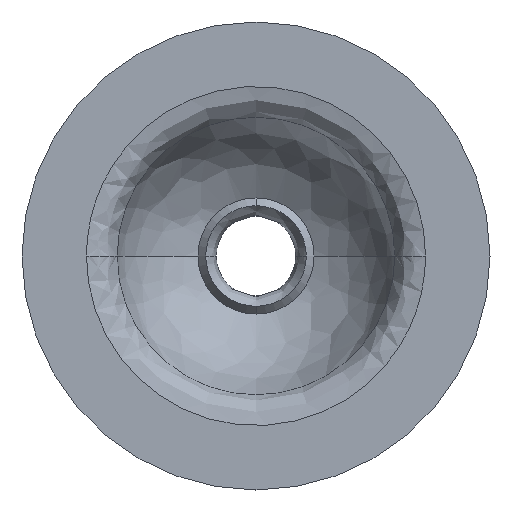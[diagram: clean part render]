
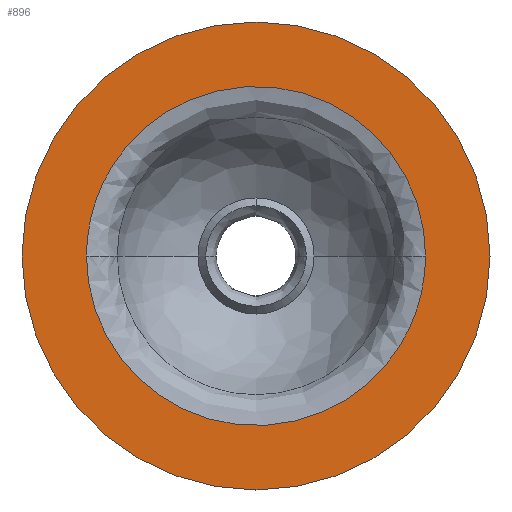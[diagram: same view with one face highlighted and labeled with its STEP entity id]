
A CAD part, front view. The second image highlights one B-rep face of the part: STEP entity #896.
In plain terms, the highlighted planar face has unit normal (0, -1, 0).
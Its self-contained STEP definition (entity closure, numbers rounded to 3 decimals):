
#50 = FACE_BOUND ( 'NONE', #884, .T. ) ;
#52 = FACE_OUTER_BOUND ( 'NONE', #787, .T. ) ;
#53 = PLANE ( 'NONE',  #54 ) ;
#54 = AXIS2_PLACEMENT_3D ( 'NONE', #55, #56, #57 ) ;
#55 = CARTESIAN_POINT ( 'NONE',  ( 31.2, 0., 31.2 ) ) ;
#56 = DIRECTION ( 'NONE',  ( 0., -1., 0. ) ) ;
#57 = DIRECTION ( 'NONE',  ( -1., 0., 0. ) ) ;
#121 =( BOUNDED_CURVE ( )  B_SPLINE_CURVE ( 3, ( #122, #123, #124, #125 ),
 .UNSPECIFIED., .F., .T. ) 
 B_SPLINE_CURVE_WITH_KNOTS ( ( 4, 4 ),
 ( 0., 1. ),
 .UNSPECIFIED. ) 
 CURVE ( )  GEOMETRIC_REPRESENTATION_ITEM ( )  RATIONAL_B_SPLINE_CURVE ( ( 1., 0.333, 0.333, 1. ) ) 
 REPRESENTATION_ITEM ( '' )  );
#122 = CARTESIAN_POINT ( 'NONE',  ( -21.736, 0., 0. ) ) ;
#123 = CARTESIAN_POINT ( 'NONE',  ( -21.736, 0., -43.472 ) ) ;
#124 = CARTESIAN_POINT ( 'NONE',  ( 21.736, 0., -43.472 ) ) ;
#125 = CARTESIAN_POINT ( 'NONE',  ( 21.736, 0., 0. ) ) ;
#315 = VERTEX_POINT ( 'NONE', #1055 ) ;
#351 =( BOUNDED_CURVE ( )  B_SPLINE_CURVE ( 3, ( #352, #353, #354, #355 ),
 .UNSPECIFIED., .F., .F. ) 
 B_SPLINE_CURVE_WITH_KNOTS ( ( 4, 4 ),
 ( 0., 1. ),
 .UNSPECIFIED. ) 
 CURVE ( )  GEOMETRIC_REPRESENTATION_ITEM ( )  RATIONAL_B_SPLINE_CURVE ( ( 1., 0.333, 0.333, 1. ) ) 
 REPRESENTATION_ITEM ( '' )  );
#352 = CARTESIAN_POINT ( 'NONE',  ( 21.736, 0., 0. ) ) ;
#353 = CARTESIAN_POINT ( 'NONE',  ( 21.736, 0., 43.472 ) ) ;
#354 = CARTESIAN_POINT ( 'NONE',  ( -21.736, 0., 43.472 ) ) ;
#355 = CARTESIAN_POINT ( 'NONE',  ( -21.736, 0., 0. ) ) ;
#505 = CIRCLE ( 'NONE', #506, 30. ) ;
#506 = AXIS2_PLACEMENT_3D ( 'NONE', #507, #508, #509 ) ;
#507 = CARTESIAN_POINT ( 'NONE',  ( 0., 0., 0. ) ) ;
#508 = DIRECTION ( 'NONE',  ( 0., -1., 0. ) ) ;
#509 = DIRECTION ( 'NONE',  ( 1., 0., 0. ) ) ;
#519 = EDGE_CURVE ( 'NONE', #315, #684, #1164, .T. ) ;
#656 = EDGE_CURVE ( 'NONE', #781, #800, #351, .T. ) ;
#669 = EDGE_CURVE ( 'NONE', #684, #315, #505, .T. ) ;
#684 = VERTEX_POINT ( 'NONE', #990 ) ;
#695 = ORIENTED_EDGE ( 'NONE', *, *, #669, .T. ) ;
#748 = ORIENTED_EDGE ( 'NONE', *, *, #519, .T. ) ;
#781 = VERTEX_POINT ( 'NONE', #1087 ) ;
#787 = EDGE_LOOP ( 'NONE', ( #748, #695 ) ) ;
#800 = VERTEX_POINT ( 'NONE', #1216 ) ;
#804 = ORIENTED_EDGE ( 'NONE', *, *, #656, .F. ) ;
#819 = EDGE_CURVE ( 'NONE', #800, #781, #121, .T. ) ;
#848 = ORIENTED_EDGE ( 'NONE', *, *, #819, .F. ) ;
#884 = EDGE_LOOP ( 'NONE', ( #848, #804 ) ) ;
#896 = ADVANCED_FACE ( 'NONE', ( #50, #52 ), #53, .T. ) ;
#990 = CARTESIAN_POINT ( 'NONE',  ( -30., 0., 0. ) ) ;
#1055 = CARTESIAN_POINT ( 'NONE',  ( 30., 0., 0. ) ) ;
#1087 = CARTESIAN_POINT ( 'NONE',  ( 21.736, 0., 0. ) ) ;
#1164 = CIRCLE ( 'NONE', #1165, 30. ) ;
#1165 = AXIS2_PLACEMENT_3D ( 'NONE', #1166, #1167, #1168 ) ;
#1166 = CARTESIAN_POINT ( 'NONE',  ( 0., 0., 0. ) ) ;
#1167 = DIRECTION ( 'NONE',  ( 0., -1., 0. ) ) ;
#1168 = DIRECTION ( 'NONE',  ( 1., 0., 0. ) ) ;
#1216 = CARTESIAN_POINT ( 'NONE',  ( -21.736, 0., 0. ) ) ;
